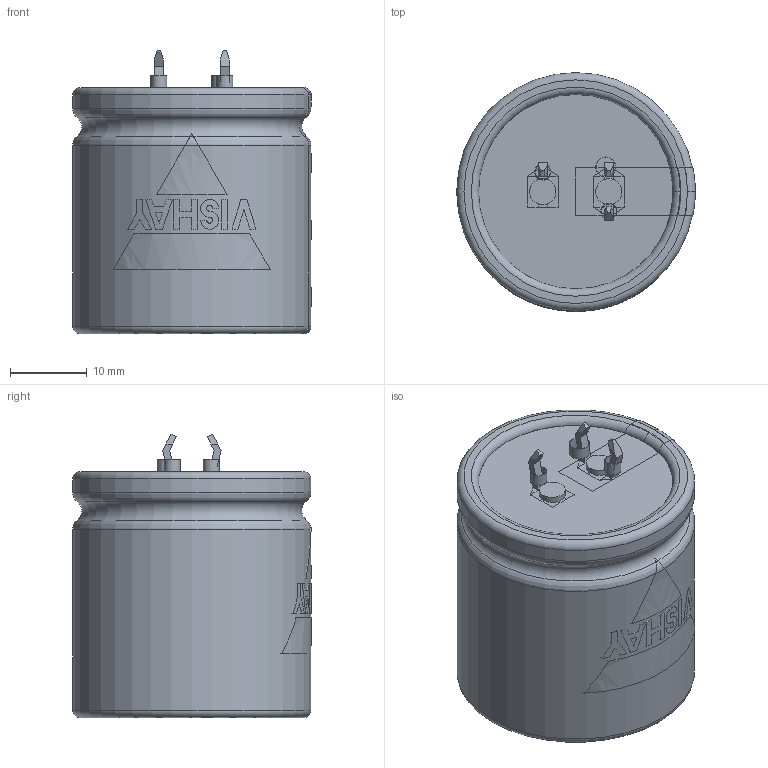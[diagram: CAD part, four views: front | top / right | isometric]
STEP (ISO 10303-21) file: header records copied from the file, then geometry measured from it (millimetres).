
FILE_DESCRIPTION(('FreeCAD Model'),'2;1');
FILE_NAME( 'C:/Users/Gebruiker/Documents/FreeCAD/SnapIn_30x30_3pin_4.0.step', '2020-11-12T21:11:14',('Author'),(''), 'Open CASCADE STEP processor 6.8','FreeCAD','Unknown');
FILE_SCHEMA(('AUTOMOTIVE_DESIGN_CC2 { 1 2 10303 214 -1 1 5 4 }'));
Length unit declared in the file: millimetre
Products named in the file (9): ASSEMBLY; TerminalPlus; Disc; BottomInsulation; Can3D; InkMinusBar; InkLogo; TerminalMinKP; PCBHolesKP
Assembly tree (8 placements, depth 2):
  ASSEMBLY
    TerminalPlus
    Disc
    BottomInsulation
    Can3D
    InkMinusBar
    InkLogo
    TerminalMinKP
    PCBHolesKP
Bounding box: 31.05 x 31.05 x 36.95 mm (x, y, z)
Volume: 27757.5 mm3; surface area: 11978.1 mm2
Topology: 17 solids, 17 shells, 207 faces, 501 edges, 327 vertices
Faces by surface type: plane 156, cylinder 31, torus 20
Full cylindrical faces by diameter (mm): 2 x2, 2.1 x2, 2.5 x1, 2.6 x1, 3.4 x2, 24.8 x2, 25.3 x1, 31 x2
Entity records: 21941 total; most frequent: CARTESIAN_POINT 10766, DIRECTION 1714, ORIENTED_EDGE 1002, PCURVE 1002, DEFINITIONAL_REPRESENTATION 1002, LINE 951, VECTOR 951, EDGE_CURVE 501
